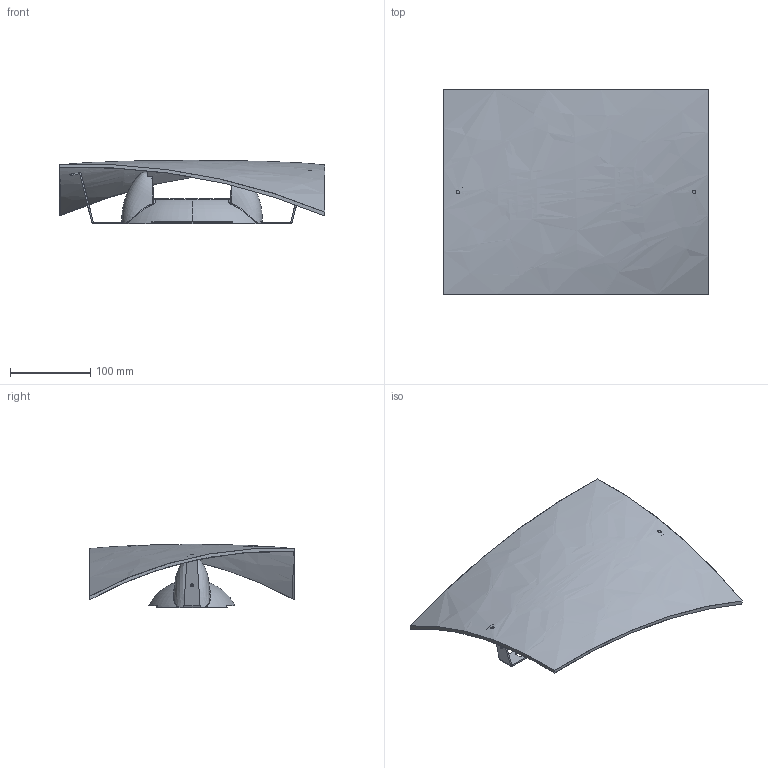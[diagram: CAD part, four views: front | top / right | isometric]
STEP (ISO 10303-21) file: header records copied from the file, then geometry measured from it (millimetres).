
FILE_DESCRIPTION (( 'STEP AP203' ), '1' );
FILE_NAME ('019_PICCOLA_W_PL_3D.STEP', '2025-04-15T11:33:22', ( '' ), ( '' ), 'SwSTEP 2.0', 'SolidWorks 2024', '' );
FILE_SCHEMA (( 'CONFIG_CONTROL_DESIGN' ));
Products named in the file (1): 019_PICCOLA_W_PL_3D
Bounding box: 330 x 254 x 78.86 mm (x, y, z)
Surface area: 418449.9 mm2 (no closed solid volume)
Topology: 0 solids, 299 shells, 393 faces, 2588 edges, 2492 vertices
Faces by surface type: bspline 256, plane 79, cylinder 50, cone 8
Entity records: 133251 total; most frequent: CARTESIAN_POINT 119461, ORIENTED_EDGE 2817, EDGE_CURVE 2579, VERTEX_POINT 2491, B_SPLINE_CURVE_WITH_KNOTS 2148, DIRECTION 779, EDGE_LOOP 427, ADVANCED_FACE 392
